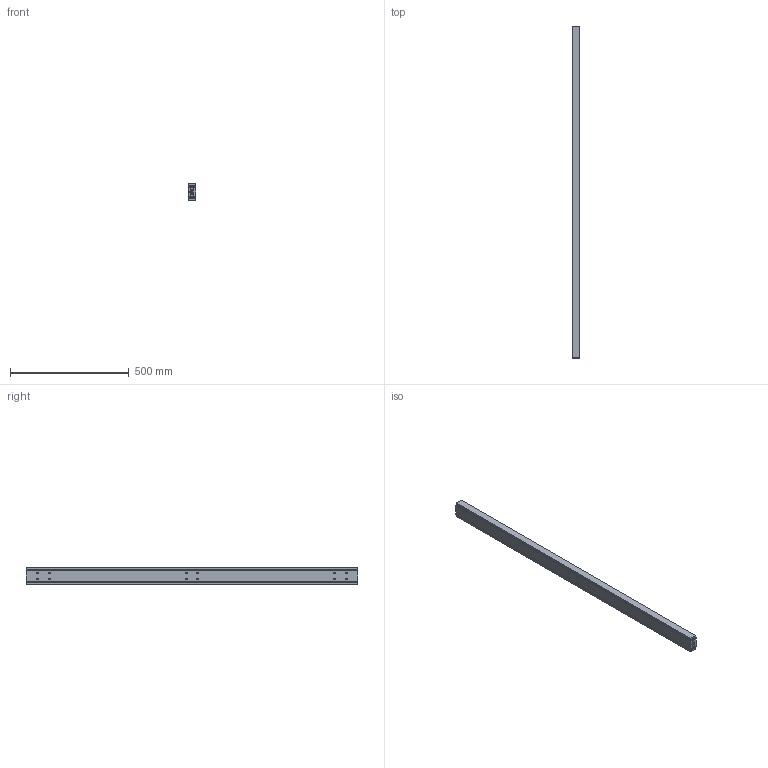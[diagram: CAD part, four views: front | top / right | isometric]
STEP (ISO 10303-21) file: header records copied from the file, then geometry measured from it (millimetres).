
FILE_DESCRIPTION(/* description */ (''),/* implementation_level */ '2;1');
FILE_NAME(/* name */ 'C:\Users\Miluxor\Desktop\Miluxor Schienen\Original Zeichnungen\Zeichnungen Schienen Komplett\MX-DTP70\MX-DTP70.140\MX-DTP70.140_eingefahren.stp',/* time_stamp */ '2020-08-13T17:12:58+02:00',/* author */ ('Miluxor'),/* organization */ (''),/* preprocessor_version */ 'ST-DEVELOPER v16.13',/* originating_system */ 'AutoCAD Mechanical',/* authorisation */ '');
FILE_SCHEMA (('AUTOMOTIVE_DESIGN { 1 0 10303 214 3 1 1 }'));
Length unit declared in the file: millimetre
Products named in the file (1): Product
Bounding box: 32 x 1400 x 70 mm (x, y, z)
Volume: 2388570.6 mm3; surface area: 803844.6 mm2
Topology: 63 solids, 65 shells, 200 faces, 646 edges, 464 vertices
Faces by surface type: plane 86, sphere 56, cylinder 40, torus 10, bspline 8
Full cylindrical faces by diameter (mm): 6 x2, 8 x24, 13 x2
Entity records: 13133 total; most frequent: CARTESIAN_POINT 7613, DIRECTION 1126, ORIENTED_EDGE 844, EDGE_CURVE 494, VERTEX_POINT 462, AXIS2_PLACEMENT_3D 457, EDGE_LOOP 402, CIRCLE 260
